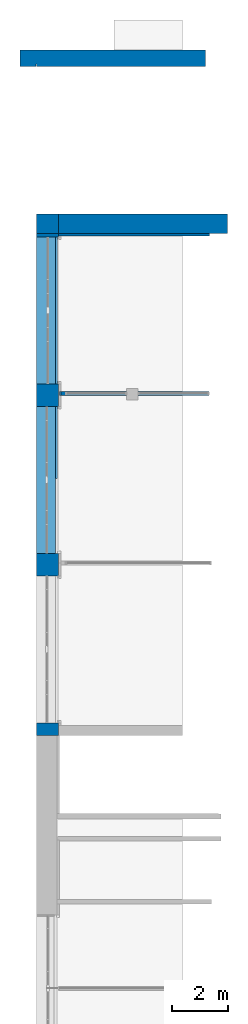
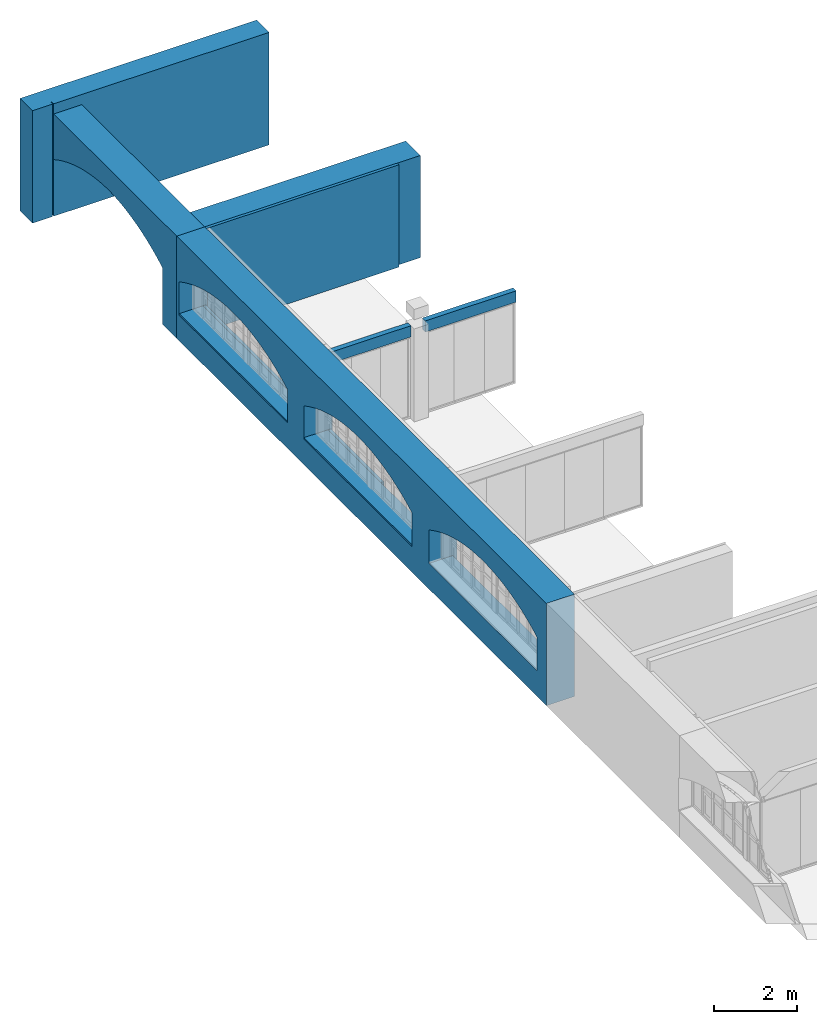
# One storey, part 29 of 32: 12 walls, 9 openings.
"""IFC2X3 building model written with IfcOpenShell, lengths in millimetres."""

from ifc_helpers import new_model, entity, si_unit, converted_unit, derived_unit, direction, frame, frame_2d, origin, origin_2d_with_axis, place, context, subcontext, project, spatial, polyline, circle_curve, parameter, trimmed, segment, composite_curve, rectangle, outline, extrude, clip, bounded_halfspace, material, layer, layer_set, layer_usage, type_object, element, save


model = new_model("IFC2X3")

# Units and contexts
model_context = context("Model", 3, precision=0.01, world=origin(), true_north=direction((6.123031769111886e-17, 1.0)))
body_context = subcontext(model_context, "Body", "Model", "MODEL_VIEW")
ifc_project = project(units=[si_unit("LENGTHUNIT", "METRE", prefix="MILLI"), si_unit("AREAUNIT", "SQUARE_METRE"), si_unit("VOLUMEUNIT", "CUBIC_METRE"), converted_unit("PLANEANGLEUNIT", "DEGREE", entity("IfcPlaneAngleMeasure", 0.017453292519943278), si_unit("PLANEANGLEUNIT", "RADIAN"), dimensions=[0, 0, 0, 0, 0, 0, 0]), si_unit("MASSUNIT", "GRAM", prefix="KILO"), derived_unit("MASSDENSITYUNIT", [(si_unit("MASSUNIT", "GRAM", prefix="KILO"), 1), (si_unit("LENGTHUNIT", "METRE"), -3)]), derived_unit("IONCONCENTRATIONUNIT", [(si_unit("MASSUNIT", "GRAM", prefix="KILO"), 1), (si_unit("LENGTHUNIT", "METRE"), -3)]), derived_unit("MOMENTOFINERTIAUNIT", [(si_unit("LENGTHUNIT", "METRE"), 4)]), si_unit("TIMEUNIT", "SECOND"), si_unit("FREQUENCYUNIT", "HERTZ"), si_unit("THERMODYNAMICTEMPERATUREUNIT", "DEGREE_CELSIUS"), derived_unit("THERMALTRANSMITTANCEUNIT", [(si_unit("MASSUNIT", "GRAM", prefix="KILO"), 1), (si_unit("THERMODYNAMICTEMPERATUREUNIT", "KELVIN"), -1), (si_unit("TIMEUNIT", "SECOND"), -3)]), derived_unit("THERMALCONDUCTANCEUNIT", [(si_unit("MASSUNIT", "GRAM", prefix="KILO"), 1), (si_unit("THERMODYNAMICTEMPERATUREUNIT", "KELVIN"), -1), (si_unit("TIMEUNIT", "SECOND"), -3), (si_unit("LENGTHUNIT", "METRE"), 1)]), derived_unit("VOLUMETRICFLOWRATEUNIT", [(si_unit("LENGTHUNIT", "METRE", prefix="DECI"), 3), (si_unit("TIMEUNIT", "SECOND"), -1)]), derived_unit("MASSFLOWRATEUNIT", [(si_unit("MASSUNIT", "GRAM", prefix="KILO"), 1), (si_unit("TIMEUNIT", "SECOND"), -1)]), derived_unit("ROTATIONALFREQUENCYUNIT", [(si_unit("TIMEUNIT", "SECOND"), -1)]), si_unit("ELECTRICCURRENTUNIT", "AMPERE"), si_unit("ELECTRICVOLTAGEUNIT", "VOLT"), si_unit("POWERUNIT", "WATT"), si_unit("FORCEUNIT", "NEWTON", prefix="KILO"), si_unit("ILLUMINANCEUNIT", "LUX"), si_unit("LUMINOUSFLUXUNIT", "LUMEN"), si_unit("LUMINOUSINTENSITYUNIT", "CANDELA"), si_unit("ENERGYUNIT", "JOULE"), derived_unit("USERDEFINED", [(si_unit("MASSUNIT", "GRAM", prefix="KILO"), -1), (si_unit("LENGTHUNIT", "METRE"), -2), (si_unit("TIMEUNIT", "SECOND"), 3), (si_unit("LUMINOUSFLUXUNIT", "LUMEN"), 1)]), derived_unit("USERDEFINED", [(si_unit("MASSUNIT", "GRAM", prefix="KILO"), 1), (si_unit("TIMEUNIT", "SECOND"), -3), (si_unit("LENGTHUNIT", "METRE"), 3), (si_unit("ELECTRICCURRENTUNIT", "AMPERE"), -2)]), derived_unit("SOUNDPOWERUNIT", [(si_unit("MASSUNIT", "GRAM", prefix="KILO"), 1), (si_unit("TIMEUNIT", "SECOND"), -3), (si_unit("LENGTHUNIT", "METRE"), 2)]), derived_unit("SOUNDPRESSUREUNIT", [(si_unit("MASSUNIT", "GRAM", prefix="KILO"), 1), (si_unit("LENGTHUNIT", "METRE"), -1), (si_unit("TIMEUNIT", "SECOND"), -2)]), derived_unit("LINEARVELOCITYUNIT", [(si_unit("LENGTHUNIT", "METRE"), 1), (si_unit("TIMEUNIT", "SECOND"), -1)]), si_unit("PRESSUREUNIT", "PASCAL"), derived_unit("USERDEFINED", [(si_unit("MASSUNIT", "GRAM", prefix="KILO"), 1), (si_unit("LENGTHUNIT", "METRE"), -2), (si_unit("TIMEUNIT", "SECOND"), -2)]), derived_unit("LINEARFORCEUNIT", [(si_unit("MASSUNIT", "GRAM", prefix="KILO"), 1), (si_unit("TIMEUNIT", "SECOND"), -2)]), derived_unit("PLANARFORCEUNIT", [(si_unit("MASSUNIT", "GRAM", prefix="KILO"), 1), (si_unit("LENGTHUNIT", "METRE"), -1), (si_unit("TIMEUNIT", "SECOND"), -2)]), derived_unit("SPECIFICHEATCAPACITYUNIT", [(si_unit("THERMODYNAMICTEMPERATUREUNIT", "KELVIN"), -1), (si_unit("LENGTHUNIT", "METRE"), 2), (si_unit("TIMEUNIT", "SECOND"), -2)]), derived_unit("HEATFLUXDENSITYUNIT", [(si_unit("MASSUNIT", "GRAM", prefix="KILO"), 1), (si_unit("TIMEUNIT", "SECOND"), -3)]), derived_unit("HEATINGVALUEUNIT", [(si_unit("LENGTHUNIT", "METRE"), 2), (si_unit("TIMEUNIT", "SECOND"), -2)]), derived_unit("VAPORPERMEABILITYUNIT", [(si_unit("LENGTHUNIT", "METRE"), -1), (si_unit("TIMEUNIT", "SECOND"), 1)]), derived_unit("DYNAMICVISCOSITYUNIT", [(si_unit("MASSUNIT", "GRAM", prefix="KILO"), 1), (si_unit("TIMEUNIT", "SECOND"), -1), (si_unit("LENGTHUNIT", "METRE"), -1)]), derived_unit("THERMALEXPANSIONCOEFFICIENTUNIT", [(si_unit("THERMODYNAMICTEMPERATUREUNIT", "KELVIN"), -1)]), derived_unit("MODULUSOFELASTICITYUNIT", [(si_unit("MASSUNIT", "GRAM", prefix="KILO"), 1), (si_unit("LENGTHUNIT", "METRE"), -1), (si_unit("TIMEUNIT", "SECOND"), -2)]), derived_unit("ISOTHERMALMOISTURECAPACITYUNIT", [(si_unit("MASSUNIT", "GRAM", prefix="KILO"), -1), (si_unit("LENGTHUNIT", "METRE"), 3)]), derived_unit("MOISTUREDIFFUSIVITYUNIT", [(si_unit("TIMEUNIT", "SECOND"), -1), (si_unit("LENGTHUNIT", "METRE"), 2)]), derived_unit("MASSPERLENGTHUNIT", [(si_unit("MASSUNIT", "GRAM", prefix="KILO"), 1), (si_unit("LENGTHUNIT", "METRE"), -1)]), derived_unit("THERMALRESISTANCEUNIT", [(si_unit("MASSUNIT", "GRAM", prefix="KILO"), -1), (si_unit("TIMEUNIT", "SECOND"), 3), (si_unit("THERMODYNAMICTEMPERATUREUNIT", "KELVIN"), 1)]), derived_unit("ACCELERATIONUNIT", [(si_unit("LENGTHUNIT", "METRE"), 1), (si_unit("TIMEUNIT", "SECOND"), -2)]), derived_unit("ANGULARVELOCITYUNIT", [(si_unit("TIMEUNIT", "SECOND"), -1), (si_unit("PLANEANGLEUNIT", "RADIAN"), 1)]), derived_unit("LINEARSTIFFNESSUNIT", [(si_unit("MASSUNIT", "GRAM", prefix="KILO"), 1), (si_unit("TIMEUNIT", "SECOND"), -2)]), derived_unit("WARPINGCONSTANTUNIT", [(si_unit("LENGTHUNIT", "METRE"), 6)]), derived_unit("LINEARMOMENTUNIT", [(si_unit("MASSUNIT", "GRAM", prefix="KILO"), 1), (si_unit("LENGTHUNIT", "METRE"), 1), (si_unit("TIMEUNIT", "SECOND"), -2)]), derived_unit("TORQUEUNIT", [(si_unit("MASSUNIT", "GRAM", prefix="KILO"), 1), (si_unit("LENGTHUNIT", "METRE"), 2), (si_unit("TIMEUNIT", "SECOND"), -2)])], contexts=[model_context])

# Site, building, storey
site_placement = place(None, origin())
site = spatial("IfcSite", under=ifc_project, at=site_placement, Name="Default", CompositionType="ELEMENT")
building_placement = place(site_placement, origin())
building = spatial("IfcBuilding", under=site, at=building_placement, Name="Eesti Rahvusraamatukogu hoone renoveerimise projekteerimistööd", CompositionType="ELEMENT")
storey_placement = place(building_placement, frame((0.0, 0.0, 4950.000000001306)))
storey = spatial("IfcBuildingStorey", under=building, at=storey_placement, Name="2. korrus", CompositionType="ELEMENT", Elevation=4950.000000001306)

# Wall
ifc_material_1 = material(Name="ol. olev materjal")
ifc_layer_1 = layer(ifc_material_1, 700.0)
ifc_layer_set_1 = layer_set([ifc_layer_1], Name="Basic Wall:ol. olev - 700mm")
ifc_layer_usage_1 = layer_usage(ifc_layer_set_1, "AXIS2", "NEGATIVE", 350.0)
wall_type_1 = type_object("IfcWallType", Name="Basic Wall:ol. olev - 700mm", PredefinedType="STANDARD", material=ifc_layer_set_1)
wall_1_placement = place(storey_placement, frame((-36000.0, 48430.0, 0.0)))
element("IfcWallStandardCase", 1, at=wall_1_placement, inside=storey, type_object=wall_type_1, material=ifc_layer_usage_1, Name="Basic Wall:ol. olev - 700mm", ObjectType="Basic Wall:ol. olev - 700mm", context=body_context, shape_type="SweptSolid", body=[
    extrude(rectangle(XDim=5979.999999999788, YDim=699.9999999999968, at=frame_2d((2989.999999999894, 1.4210854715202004e-13), x_axis=(-1.0, 0.0))), origin(), (0.0, 0.0, 1.0), 3000.000000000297),
])

# Wall, opening
ifc_layer_2 = layer(ifc_material_1, 780.0)
ifc_layer_set_2 = layer_set([ifc_layer_2], Name="Basic Wall:ol. olev - 780mm")
ifc_layer_usage_2 = layer_usage(ifc_layer_set_2, "AXIS2", "NEGATIVE", 390.0)
wall_type_2 = type_object("IfcWallType", Name="Basic Wall:ol. olev - 780mm", PredefinedType="STANDARD", material=ifc_layer_set_2)
wall_2_placement = place(storey_placement, frame((-36390.0, 53990.376279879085, 0.0), z_axis=(0.0, 0.0, 1.0), x_axis=(0.0, -1.0, 0.0)))
wall_2 = element("IfcWallStandardCase", 2, at=wall_2_placement, inside=storey, type_object=wall_type_2, material=ifc_layer_usage_2, Name="Basic Wall:ol. olev - 780mm", ObjectType="Basic Wall:ol. olev - 780mm", context=body_context, shape_type="SweptSolid", body=[
    extrude(rectangle(XDim=5910.376279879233, YDim=779.9999999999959, at=frame_2d((2955.1881399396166, 4.263256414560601e-13), x_axis=(-1.0, 0.0))), origin(), (0.0, 0.0, 1.0), 3000.000000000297),
])
opening_1_placement = place(wall_2_placement, frame((53990.37627987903, 36390.0, 0.0)))
element("IfcOpeningElement", 3, at=opening_1_placement, cuts=wall_2, Name="Basic Wall:ol. olev - 780mm", ObjectType="Opening", context=body_context, shape_type="SweptSolid", body=[
    extrude(outline(composite_curve([segment(polyline([(-2610.0, -1138.0), (2610.0, -1138.0)]), True, "CONTINUOUS"), segment(polyline([(2610.0, -1138.0), (2610.0, 522.0)]), True, "CONTINUOUS"), segment(trimmed(circle_curve(frame_2d((-84.40586071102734, -4230.534220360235), x_axis=(-1.0, 0.0)), 5463.186291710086), [parameter(240.44932733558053)], [parameter(269.1147488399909)], True, "PARAMETER"), True, "CONTINUOUS"), segment(trimmed(circle_curve(frame_2d((84.40586071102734, -4230.534220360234), x_axis=(-1.0, 0.0)), 5463.186291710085), [parameter(270.8852511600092)], [parameter(299.55067266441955)], True, "PARAMETER"), True, "CONTINUOUS"), segment(polyline([(-2610.0, 522.0), (-2610.0, -1138.0)]), True, "CONTINUOUS")], self_intersect=False)), frame((-51380.37627987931, -38304.0, 1138.0), z_axis=(0.0, 1.0, 0.0), x_axis=(-1.0, 0.0, 0.0)), (0.0, 0.0, 1.0), 3048.0),
])

# Wall, openings
ifc_layer_usage_3 = layer_usage(ifc_layer_set_2, "AXIS2", "NEGATIVE", 390.0)
wall_3_placement = place(storey_placement, frame((-36390.0, 48080.0, 0.0), z_axis=(0.0, 0.0, 1.0), x_axis=(0.0, -1.0, 0.0)))
wall_3 = element("IfcWallStandardCase", 4, at=wall_3_placement, inside=storey, type_object=wall_type_2, material=ifc_layer_usage_3, Name="Basic Wall:ol. olev - 780mm", ObjectType="Basic Wall:ol. olev - 780mm", context=body_context, shape_type="SweptSolid", body=[
    extrude(rectangle(XDim=17774.999999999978, YDim=779.9999999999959, at=frame_2d((8887.499999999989, -9.379164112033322e-13), x_axis=(-1.0, 0.0))), origin(), (0.0, 0.0, 1.0), 3000.000000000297),
])
opening_2_placement = place(wall_3_placement, frame((17326.154980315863, -542.4000000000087, 800.0)))
element("IfcOpeningElement", 5, at=opening_2_placement, cuts=wall_3, Name="Basic Wall:ol. olev - 780mm", ObjectType="Opening", context=body_context, shape_type="SweptSolid", body=[
    extrude(outline(composite_curve([segment(polyline([(-465.0, -2600.0), (465.0, -2600.0)]), True, "CONTINUOUS"), segment(trimmed(circle_curve(frame_2d((-4244.776119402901, 0.0), x_axis=(0.0, -1.0)), 5379.776119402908), [parameter(61.09940419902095)], [parameter(118.90059580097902)], True, "PARAMETER"), True, "CONTINUOUS"), segment(polyline([(465.0, 2600.0), (-465.0, 2600.0)]), True, "CONTINUOUS"), segment(polyline([(-465.0, 2600.0), (-465.0, -2600.0)]), True, "CONTINUOUS")], self_intersect=False)), frame((-2601.5952722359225, 0.0, 465.0), z_axis=(0.0, 1.0, 0.0), x_axis=(0.0, 0.0, 1.0)), (0.0, 0.0, 1.0), 1084.8000000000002),
])
opening_3_placement = place(wall_3_placement, frame((5322.59527223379, -542.4000000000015, 800.0)))
element("IfcOpeningElement", 6, at=opening_3_placement, cuts=wall_3, Name="Basic Wall:ol. olev - 780mm", ObjectType="Opening", context=body_context, shape_type="SweptSolid", body=[
    extrude(outline(composite_curve([segment(polyline([(-465.0, -2600.0), (465.0, -2600.0)]), True, "CONTINUOUS"), segment(trimmed(circle_curve(frame_2d((-4244.776119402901, 0.0), x_axis=(0.0, -1.0)), 5379.776119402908), [parameter(61.09940419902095)], [parameter(118.90059580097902)], True, "PARAMETER"), True, "CONTINUOUS"), segment(polyline([(465.0, 2600.0), (-465.0, 2600.0)]), True, "CONTINUOUS"), segment(polyline([(-465.0, 2600.0), (-465.0, -2600.0)]), True, "CONTINUOUS")], self_intersect=False)), frame((-2601.595272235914, 0.0, 465.0), z_axis=(0.0, 1.0, 0.0), x_axis=(0.0, 0.0, 1.0)), (0.0, 0.0, 1.0), 1084.8000000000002),
])
opening_4_placement = place(wall_3_placement, frame((11324.095272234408, -542.4000000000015, 800.0)))
element("IfcOpeningElement", 7, at=opening_4_placement, cuts=wall_3, Name="Basic Wall:ol. olev - 780mm", ObjectType="Opening", context=body_context, shape_type="SweptSolid", body=[
    extrude(outline(composite_curve([segment(polyline([(-465.0, -2600.0), (465.0, -2600.0)]), True, "CONTINUOUS"), segment(trimmed(circle_curve(frame_2d((-4244.776119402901, 0.0), x_axis=(0.0, -1.0)), 5379.776119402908), [parameter(61.09940419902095)], [parameter(118.90059580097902)], True, "PARAMETER"), True, "CONTINUOUS"), segment(polyline([(465.0, 2600.0), (-465.0, 2600.0)]), True, "CONTINUOUS"), segment(polyline([(-465.0, 2600.0), (-465.0, -2600.0)]), True, "CONTINUOUS")], self_intersect=False)), frame((-2601.595272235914, 0.0, 465.0), z_axis=(0.0, 1.0, 0.0), x_axis=(0.0, 0.0, 1.0)), (0.0, 0.0, 1.0), 1084.8000000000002),
])
opening_5_placement = place(wall_3_placement, frame((17326.154980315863, -542.4000000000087, 750.0)))
element("IfcOpeningElement", 8, at=opening_5_placement, cuts=wall_3, Name="Basic Wall:ol. olev - 780mm", ObjectType="Opening", context=body_context, shape_type="SweptSolid", body=[
    extrude(outline(composite_curve([segment(polyline([(-465.0, -2600.0), (465.0, -2600.0)]), True, "CONTINUOUS"), segment(trimmed(circle_curve(frame_2d((-4244.776119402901, 0.0), x_axis=(0.0, -1.0)), 5379.776119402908), [parameter(61.09940419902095)], [parameter(118.90059580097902)], True, "PARAMETER"), True, "CONTINUOUS"), segment(polyline([(465.0, 2600.0), (-465.0, 2600.0)]), True, "CONTINUOUS"), segment(polyline([(-465.0, 2600.0), (-465.0, -2600.0)]), True, "CONTINUOUS")], self_intersect=False)), frame((-2601.5952722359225, 0.0, 465.0), z_axis=(0.0, 1.0, 0.0), x_axis=(0.0, 0.0, 1.0)), (0.0, 0.0, 1.0), 1084.8000000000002),
])
opening_6_placement = place(wall_3_placement, frame((5322.59527223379, -542.4000000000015, 750.0)))
element("IfcOpeningElement", 9, at=opening_6_placement, cuts=wall_3, Name="Basic Wall:ol. olev - 780mm", ObjectType="Opening", context=body_context, shape_type="SweptSolid", body=[
    extrude(outline(composite_curve([segment(polyline([(-465.0, -2600.0), (465.0, -2600.0)]), True, "CONTINUOUS"), segment(trimmed(circle_curve(frame_2d((-4244.776119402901, 0.0), x_axis=(0.0, -1.0)), 5379.776119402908), [parameter(61.09940419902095)], [parameter(118.90059580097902)], True, "PARAMETER"), True, "CONTINUOUS"), segment(polyline([(465.0, 2600.0), (-465.0, 2600.0)]), True, "CONTINUOUS"), segment(polyline([(-465.0, 2600.0), (-465.0, -2600.0)]), True, "CONTINUOUS")], self_intersect=False)), frame((-2601.595272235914, 0.0, 465.0), z_axis=(0.0, 1.0, 0.0), x_axis=(0.0, 0.0, 1.0)), (0.0, 0.0, 1.0), 1084.8000000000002),
])
opening_7_placement = place(wall_3_placement, frame((11324.095272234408, -542.4000000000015, 750.0)))
element("IfcOpeningElement", 10, at=opening_7_placement, cuts=wall_3, Name="Basic Wall:ol. olev - 780mm", ObjectType="Opening", context=body_context, shape_type="SweptSolid", body=[
    extrude(outline(composite_curve([segment(polyline([(-465.0, -2600.0), (465.0, -2600.0)]), True, "CONTINUOUS"), segment(trimmed(circle_curve(frame_2d((-4244.776119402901, 0.0), x_axis=(0.0, -1.0)), 5379.776119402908), [parameter(61.09940419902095)], [parameter(118.90059580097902)], True, "PARAMETER"), True, "CONTINUOUS"), segment(polyline([(465.0, 2600.0), (-465.0, 2600.0)]), True, "CONTINUOUS"), segment(polyline([(-465.0, 2600.0), (-465.0, -2600.0)]), True, "CONTINUOUS")], self_intersect=False)), frame((-2601.595272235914, 0.0, 465.0), z_axis=(0.0, 1.0, 0.0), x_axis=(0.0, 0.0, 1.0)), (0.0, 0.0, 1.0), 1084.8000000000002),
])
opening_8_placement = place(wall_3_placement, frame((48080.0, 36390.0, -4950.000000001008)))
element("IfcOpeningElement", 11, at=opening_8_placement, cuts=wall_3, Name="Basic Wall:ol. olev - 780mm", ObjectType="Recess", context=body_context, shape_type="SweptSolid", body=[
    extrude(rectangle(XDim=799.9999999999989, YDim=5199.999999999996, at=frame_2d((0.0, -5.400124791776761e-13), x_axis=(0.0, 1.0))), frame((-33355.44029191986, -36120.0, 5350.000000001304), z_axis=(0.0, 1.0, 0.0), x_axis=(1.0, 0.0, 0.0)), (0.0, 0.0, 1.0), 119.9999999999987),
    extrude(rectangle(XDim=799.9999999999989, YDim=5199.999999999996, at=frame_2d((0.0, -5.400124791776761e-13), x_axis=(0.0, 1.0))), frame((-39357.50000000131, -36120.0, 5350.000000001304), z_axis=(0.0, 1.0, 0.0), x_axis=(1.0, 0.0, 0.0)), (0.0, 0.0, 1.0), 119.9999999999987),
    extrude(rectangle(XDim=799.9999999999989, YDim=5199.999999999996, at=frame_2d((0.0, -5.400124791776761e-13), x_axis=(0.0, 1.0))), frame((-45359.00000000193, -36120.0, 5350.000000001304), z_axis=(0.0, 1.0, 0.0), x_axis=(1.0, 0.0, 0.0)), (0.0, 0.0, 1.0), 119.9999999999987),
])

# Walls
ifc_layer_usage_4 = layer_usage(ifc_layer_set_2, "AXIS2", "NEGATIVE", 390.0)
wall_4_placement = place(storey_placement, frame((-36390.0, 47959.00000000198, 750.0), z_axis=(0.0, 0.0, 1.0), x_axis=(0.0, -1.0, 0.0)))
element("IfcWallStandardCase", 12, at=wall_4_placement, inside=storey, type_object=wall_type_2, material=ifc_layer_usage_4, Name="Basic Wall:ol. olev - 780mm", ObjectType="Basic Wall:ol. olev - 780mm", context=body_context, shape_type="SweptSolid", body=[
    extrude(rectangle(XDim=660.0000000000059, YDim=5199.999999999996, at=frame_2d((-4.320099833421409e-12, 0.0), x_axis=(1.0, 0.0))), frame((2600.0, -60.0, 0.0), z_axis=(0.0, 0.0, 1.0), x_axis=(0.0, 1.0, 0.0)), (0.0, 0.0, 1.0), 49.99999999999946),
])
ifc_layer_usage_5 = layer_usage(ifc_layer_set_2, "AXIS2", "NEGATIVE", 390.0)
wall_5_placement = place(storey_placement, frame((-36390.0, 41957.50000000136, 750.0), z_axis=(0.0, 0.0, 1.0), x_axis=(0.0, -1.0, 0.0)))
element("IfcWallStandardCase", 13, at=wall_5_placement, inside=storey, type_object=wall_type_2, material=ifc_layer_usage_5, Name="Basic Wall:ol. olev - 780mm", ObjectType="Basic Wall:ol. olev - 780mm", context=body_context, shape_type="SweptSolid", body=[
    extrude(rectangle(XDim=660.0000000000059, YDim=5199.999999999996, at=origin_2d_with_axis()), frame((2600.0, -60.0, 0.0), z_axis=(0.0, 0.0, 1.0), x_axis=(0.0, 1.0, 0.0)), (0.0, 0.0, 1.0), 49.99999999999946),
])

# Wall, opening
ifc_layer_3 = layer(ifc_material_1, 600.0)
ifc_layer_set_3 = layer_set([ifc_layer_3], Name="Basic Wall:ol. olev - 600mm")
ifc_layer_usage_6 = layer_usage(ifc_layer_set_3, "AXIS2", "NEGATIVE", 300.0)
wall_type_3 = type_object("IfcWallType", Name="Basic Wall:ol. olev - 600mm", PredefinedType="STANDARD", material=ifc_layer_set_3)
wall_6_placement = place(storey_placement, frame((-37370.0, 54290.37627987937, 0.0)))
wall_6 = element("IfcWallStandardCase", 14, at=wall_6_placement, inside=storey, type_object=wall_type_3, material=ifc_layer_usage_6, Name="Basic Wall:ol. olev - 600mm", ObjectType="Basic Wall:ol. olev - 600mm", context=body_context, shape_type="SweptSolid", body=[
    extrude(rectangle(XDim=6569.999999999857, YDim=600.0000000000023, at=frame_2d((3284.9999999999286, 2.6147972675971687e-12), x_axis=(-1.0, 0.0))), origin(), (0.0, 0.0, 1.0), 3299.999999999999),
])
opening_9_placement = place(wall_6_placement, frame((560.0, -300.0, 0.0)))
element("IfcOpeningElement", 15, at=opening_9_placement, cuts=wall_6, Name="Basic Wall:ol. olev - 600mm", ObjectType="Recess", context=body_context, shape_type="SweptSolid", body=[
    extrude(rectangle(XDim=3299.999999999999, YDim=30.00000000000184, at=frame_2d((0.0, 4.331646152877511e-12), x_axis=(1.0, 0.0))), frame((15.0, 0.0, 1650.0), z_axis=(0.0, 1.0, 0.0), x_axis=(0.0, 0.0, -1.0)), (0.0, 0.0, 1.0), 100.00000000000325),
])

# Walls
ifc_material_2 = material(Name="EST. Ehitusplaat. Kipsplaat")
ifc_layer_4 = layer(ifc_material_2, 12.5)
ifc_layer_5 = layer(ifc_material_2, 12.5)
ifc_material_3 = material(Name="EST. Roov. Kipsplaadi alusroov.Mineraalvillaga. Vertikaalne")
ifc_layer_6 = layer(ifc_material_3, 95.00000000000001)
ifc_layer_7 = layer(ifc_material_2, 12.5)
ifc_layer_8 = layer(ifc_material_2, 12.5)
ifc_layer_set_4 = layer_set([ifc_layer_4, ifc_layer_5, ifc_layer_6, ifc_layer_7, ifc_layer_8], Name="Basic Wall:SS-52 - 145 kergsein 48db")
ifc_layer_usage_7 = layer_usage(ifc_layer_set_4, "AXIS2", "NEGATIVE", 72.5)
wall_type_4 = type_object("IfcWallType", Name="Basic Wall:SS-52 - 145 kergsein 48db", PredefinedType="STANDARD", material=ifc_layer_set_4)
wall_7_placement = place(storey_placement, frame((-35970.0, 42420.0, 2399.999999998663)))
element("IfcWallStandardCase", 16, at=wall_7_placement, inside=storey, type_object=wall_type_4, material=ifc_layer_usage_7, Name="Basic Wall:SS-52 - 145 kergsein 48db", ObjectType="Basic Wall:SS-52 - 145 kergsein 48db", context=body_context, shape_type="Clipping", body=[
    clip(extrude(rectangle(XDim=2380.0000000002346, YDim=145.00000000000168, at=frame_2d((1190.0000000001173, 0.0), x_axis=(-1.0, 0.0))), origin(), (0.0, 0.0, 1.0), 330.0000000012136), bounded_halfspace(frame((0.0, -72.50000000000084, 330.0), z_axis=(0.0, 0.0, -1.0), x_axis=(-1.0, 0.0, 0.0)), True, frame((0.0, -72.50000000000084, 330.0), z_axis=(0.0, 0.0, -1.0), x_axis=(-1.0, 0.0, 0.0)), polyline([(0.0, 0.0), (0.0, 145.0), (-2380.0, 145.0), (-2380.0, 0.0), (0.0, 0.0)]))),
])
ifc_layer_usage_8 = layer_usage(ifc_layer_set_4, "AXIS2", "NEGATIVE", 72.5)
wall_8_placement = place(storey_placement, frame((-33190.0, 42420.0, 2399.999999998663)))
element("IfcWallStandardCase", 17, at=wall_8_placement, inside=storey, type_object=wall_type_4, material=ifc_layer_usage_8, Name="Basic Wall:SS-52 - 145 kergsein 48db", ObjectType="Basic Wall:SS-52 - 145 kergsein 48db", context=body_context, shape_type="SweptSolid", body=[
    extrude(rectangle(XDim=2519.9999999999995, YDim=145.0000000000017, at=frame_2d((1259.9999999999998, -1.2789769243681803e-13), x_axis=(-1.0, 0.0))), origin(), (0.0, 0.0, 1.0), 330.0000000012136),
])
ifc_layer_usage_9 = layer_usage(ifc_layer_set_4, "AXIS2", "NEGATIVE", 72.5)
wall_9_placement = place(storey_placement, frame((-35915.50000000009, 42420.0, 0.0)))
element("IfcWallStandardCase", 18, at=wall_9_placement, inside=storey, type_object=wall_type_4, material=ifc_layer_usage_9, Name="Basic Wall:SS-52 - 145 kergsein 48db", ObjectType="Basic Wall:SS-52 - 145 kergsein 48db", context=body_context, shape_type="SweptSolid", body=[
    extrude(rectangle(XDim=150.00000000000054, YDim=145.00000000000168, at=frame_2d((75.00000000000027, 0.0), x_axis=(-1.0, 0.0))), origin(), (0.0, 0.0, 1.0), 2400.0),
])
ifc_material_4 = material(Name="EST. Soojustus.PIR_Powerwall Pro")
ifc_layer_9 = layer(ifc_material_4, 30.0)
ifc_material_5 = material(Name="EST. Metall. Alumiinium. Mütsprofiil.")
ifc_layer_10 = layer(ifc_material_5, 42.0)
ifc_layer_11 = layer(ifc_material_2, 12.5)
ifc_layer_set_5 = layer_set([ifc_layer_9, ifc_layer_10, ifc_layer_11], Name="Basic Wall:VS-03.1 - soojustus")
ifc_layer_usage_10 = layer_usage(ifc_layer_set_5, "AXIS2", "NEGATIVE", 42.25000000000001)
wall_type_5 = type_object("IfcWallType", Name="Basic Wall:VS-03.1 - soojustus", PredefinedType="STANDARD", material=ifc_layer_set_5)
wall_10_placement = place(storey_placement, frame((-36000.0, 48037.749999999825, 0.0)))
element("IfcWallStandardCase", 19, at=wall_10_placement, inside=storey, type_object=wall_type_5, material=ifc_layer_usage_10, Name="Basic Wall:VS-03.1 - soojustus", ObjectType="Basic Wall:VS-03.1 - soojustus", context=body_context, shape_type="SweptSolid", body=[
    extrude(rectangle(XDim=5344.750000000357, YDim=84.50000000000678, at=frame_2d((2672.3750000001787, -5.506706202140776e-13), x_axis=(-1.0, 0.0))), origin(), (0.0, 0.0, 1.0), 2999.999999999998),
])
ifc_layer_usage_11 = layer_usage(ifc_layer_set_5, "AXIS2", "POSITIVE", -42.25000000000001)
wall_11_placement = place(storey_placement, frame((-36077.74999999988, 41957.50000000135, 0.0), z_axis=(0.0, 0.0, 1.0), x_axis=(0.0, -1.0, 0.0)))
element("IfcWallStandardCase", 20, at=wall_11_placement, inside=storey, type_object=wall_type_5, material=ifc_layer_usage_11, Name="Basic Wall:VS-03.1 - soojustus", ObjectType="Basic Wall:VS-03.1 - soojustus", context=body_context, shape_type="SweptSolid", body=[
    extrude(rectangle(XDim=2549.9999999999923, YDim=84.49999999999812, at=frame_2d((1274.9999999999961, -3.907985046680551e-14), x_axis=(-1.0, 0.0))), origin(), (0.0, 0.0, 1.0), 800.0000000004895),
])
ifc_layer_usage_12 = layer_usage(ifc_layer_set_5, "AXIS2", "POSITIVE", -42.25000000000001)
wall_12_placement = place(storey_placement, frame((-36077.74999999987, 47959.00000000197, 0.0), z_axis=(0.0, 0.0, 1.0), x_axis=(0.0, -1.0, 0.0)))
element("IfcWallStandardCase", 21, at=wall_12_placement, inside=storey, type_object=wall_type_5, material=ifc_layer_usage_12, Name="Basic Wall:VS-03.1 - soojustus", ObjectType="Basic Wall:VS-03.1 - soojustus", context=body_context, shape_type="SweptSolid", body=[
    extrude(rectangle(XDim=5199.99999999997, YDim=84.49999999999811, at=frame_2d((2599.999999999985, 0.0), x_axis=(-1.0, 0.0))), origin(), (0.0, 0.0, 1.0), 800.0000000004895),
])

save(model, "model.ifc")
